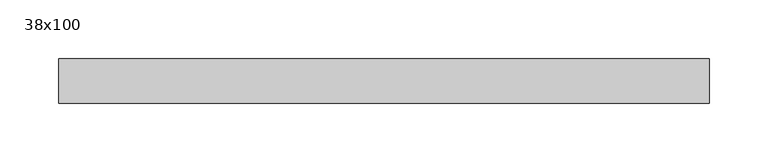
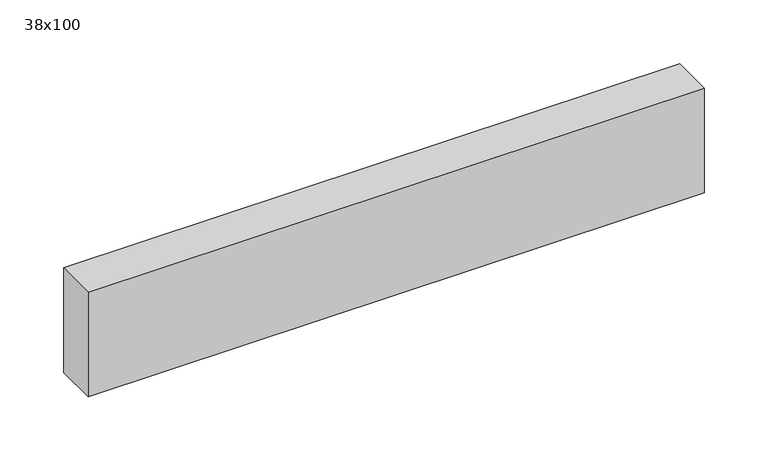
"""IFC4 building model written with IfcOpenShell, lengths in millimetres: beam geometry, Poutre - Bois de construction de dimensions courantes : 38x100."""

from ifc_helpers import new_model, si_unit, frame, origin, place, context, project, spatial, polyline, outline, extrude, source, transform, mapped, element, save


def beam_38x100_a289d4f6(model_context):
    return source(origin(), model_context, "Body", "SweptSolid", [
        extrude(outline(polyline([(273.0, 19.05), (273.0, -19.05), (-283.0, -19.05), (-283.0, 19.05), (273.0, 19.05)])), frame((0.0, 0.0, -50.0), z_axis=(0.0, 0.0, 1.0), x_axis=(1.0, 0.0, 0.0)), (0.0, 0.0, 1.0), 100.0),
    ])


if __name__ == "__main__":
    model = new_model("IFC4")
    model_context = context("Model", 3, world=origin())
    ifc_project = project(units=[si_unit("LENGTHUNIT", "METRE", prefix="MILLI")], contexts=[model_context])
    site = spatial("IfcSite", under=ifc_project)
    building = spatial("IfcBuilding", under=site)
    placement = place(None, origin())
    beam_38x100_shape = beam_38x100_a289d4f6(model_context)
    element("IfcBeam", 1, ObjectType="Poutre - Bois de construction de dimensions courantes : 38x100", at=placement, inside=building, context=model_context, shape_type="MappedRepresentation", body=[
        mapped(beam_38x100_shape, transform((0.0, 0.0, 0.0), x_axis=(1.0, 0.0, 0.0), y_axis=(0.0, 1.0, 0.0), z_axis=(0.0, 0.0, 1.0))),
    ])
    save(model, "model.ifc")
